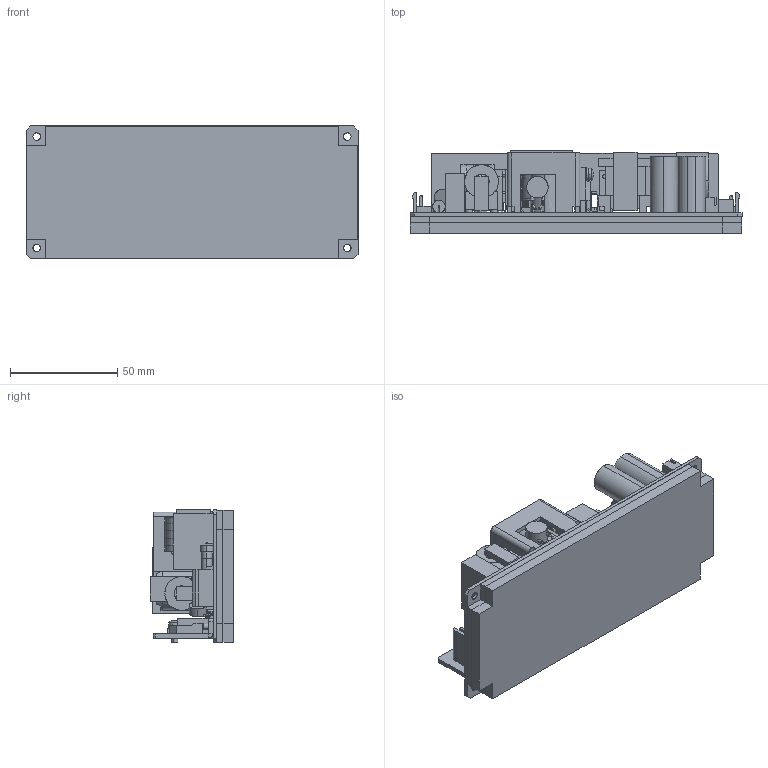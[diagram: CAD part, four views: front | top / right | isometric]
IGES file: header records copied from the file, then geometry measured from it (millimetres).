
Start section: SolidWorks IGES file using analytic representation for surfaces
Global section: file name: C:\zws100baf_outline.IGS; native system: SolidWorks 2010; preprocessor: SolidWorks 2010; author: 46000842; date: 100929.113250; units: millimetre
Bounding box: 155 x 38.9 x 62.25 mm (x, y, z)
Surface area: 90460.4 mm2 (no closed solid volume)
Topology: 0 solids, 0 shells, 1687 faces, 16067 edges, 16057 vertices
Faces by surface type: bspline 1213, revolution 474
